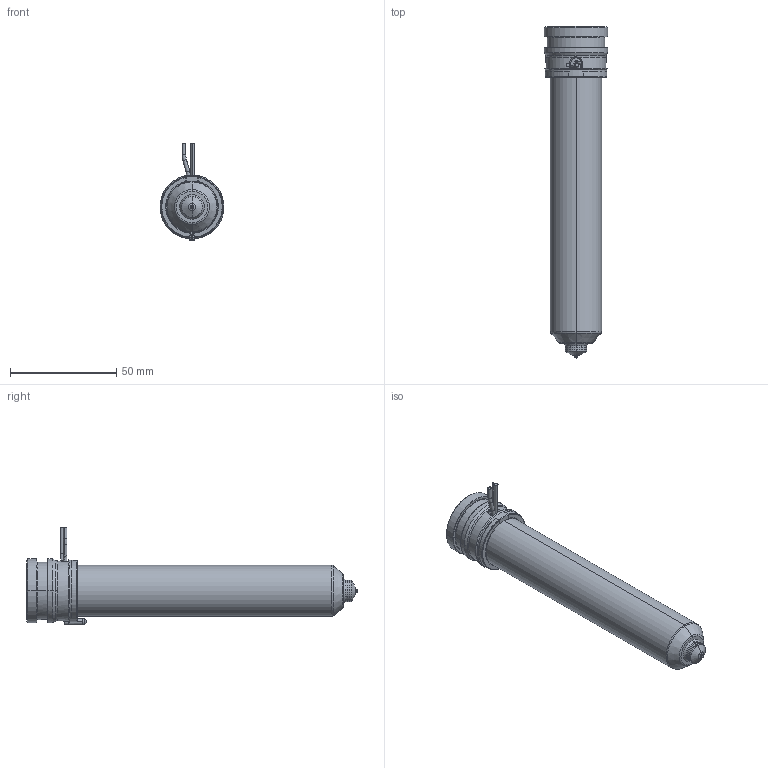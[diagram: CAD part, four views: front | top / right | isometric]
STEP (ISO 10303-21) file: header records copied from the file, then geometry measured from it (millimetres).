
FILE_DESCRIPTION((''),'2;1');
FILE_NAME('MPN-10-29-VSA10-136-A','2026-02-05T12:44:55',('UPTIO'),('Thermoplay S.p.A.'),'CREO PARAMETRIC BY PTC INC, 2023494','CREO PARAMETRIC BY PTC INC, 2023494','');
FILE_SCHEMA(('CONFIG_CONTROL_DESIGN','SHAPE_APPEARANCE_LAYERS_GROUPS'));
Length unit declared in the file: millimetre
Products named in the file (1): MPN-10-29-VSA10-136-A
Bounding box: 30 x 156 x 46 mm (x, y, z)
Volume: 48908.6 mm3; surface area: 49286.6 mm2
Topology: 2 solids, 3 shells, 556 faces, 1451 edges, 894 vertices
Faces by surface type: cylinder 184, plane 142, bspline 77, torus 70, cone 70, sphere 9, extrusion 4
Entity records: 30656 total; most frequent: CARTESIAN_POINT 14242, ORIENTED_EDGE 2890, DIRECTION 2691, EDGE_CURVE 1445, AXIS2_PLACEMENT_3D 1066, VERTEX_POINT 894, CIRCLE 590, EDGE_LOOP 585
